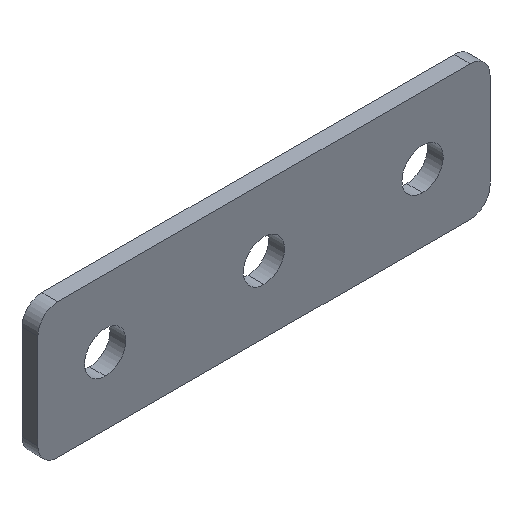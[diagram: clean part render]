
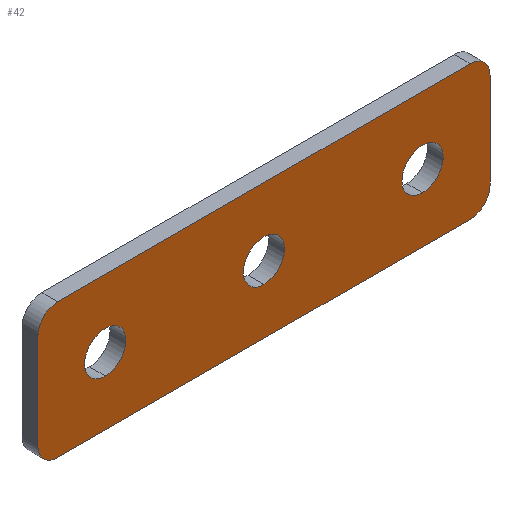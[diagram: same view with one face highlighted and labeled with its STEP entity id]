
A CAD part, isometric view. The second image highlights one B-rep face of the part: STEP entity #42.
In plain terms, the highlighted planar face has unit normal (0, -1, 0).
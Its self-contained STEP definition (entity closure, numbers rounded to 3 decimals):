
#4 = DIRECTION ( 'NONE',  ( 0., 1., 0. ) ) ;
#5 = DIRECTION ( 'NONE',  ( 0., 0., -1. ) ) ;
#7 = VERTEX_POINT ( 'NONE', #561 ) ;
#10 = DIRECTION ( 'NONE',  ( 0., 0., 1. ) ) ;
#17 = ORIENTED_EDGE ( 'NONE', *, *, #386, .T. ) ;
#19 = PLANE ( 'NONE',  #450 ) ;
#24 = ORIENTED_EDGE ( 'NONE', *, *, #378, .T. ) ;
#29 = DIRECTION ( 'NONE',  ( 0., 1., 0. ) ) ;
#31 = CARTESIAN_POINT ( 'NONE',  ( 48.5, 0., -8.5 ) ) ;
#34 = CIRCLE ( 'NONE', #402, 2.6 ) ;
#37 = EDGE_LOOP ( 'NONE', ( #189, #232, #395, #527, #210, #113, #227, #17 ) ) ;
#42 = ADVANCED_FACE ( 'NONE', ( #308, #188, #269, #448 ), #19, .T. ) ;
#67 = VECTOR ( 'NONE', #303, 1000. ) ;
#70 = CARTESIAN_POINT ( 'NONE',  ( 48.5, 0., 8.5 ) ) ;
#77 = CARTESIAN_POINT ( 'NONE',  ( -8.5, 0., 6. ) ) ;
#95 = VECTOR ( 'NONE', #174, 1000. ) ;
#102 = DIRECTION ( 'NONE',  ( 0., -1., 0. ) ) ;
#104 = CIRCLE ( 'NONE', #472, 2.5 ) ;
#109 = CARTESIAN_POINT ( 'NONE',  ( 20., 0., 0. ) ) ;
#113 = ORIENTED_EDGE ( 'NONE', *, *, #212, .T. ) ;
#118 = CARTESIAN_POINT ( 'NONE',  ( 46., 0., 6. ) ) ;
#123 = DIRECTION ( 'NONE',  ( 0., -1., 0. ) ) ;
#128 = CARTESIAN_POINT ( 'NONE',  ( 40., 0., -2.6 ) ) ;
#134 = DIRECTION ( 'NONE',  ( 0., 0., 1. ) ) ;
#142 = LINE ( 'NONE', #70, #194 ) ;
#147 = VERTEX_POINT ( 'NONE', #387 ) ;
#167 = EDGE_CURVE ( 'NONE', #195, #272, #483, .T. ) ;
#171 = EDGE_CURVE ( 'NONE', #467, #344, #142, .T. ) ;
#173 = VERTEX_POINT ( 'NONE', #253 ) ;
#174 = DIRECTION ( 'NONE',  ( -1., 0., 0. ) ) ;
#181 = AXIS2_PLACEMENT_3D ( 'NONE', #496, #359, #134 ) ;
#188 = FACE_BOUND ( 'NONE', #568, .T. ) ;
#189 = ORIENTED_EDGE ( 'NONE', *, *, #171, .F. ) ;
#190 = CARTESIAN_POINT ( 'NONE',  ( 0., 0., -2.6 ) ) ;
#191 = EDGE_CURVE ( 'NONE', #7, #238, #442, .T. ) ;
#194 = VECTOR ( 'NONE', #259, 1000. ) ;
#195 = VERTEX_POINT ( 'NONE', #309 ) ;
#196 = DIRECTION ( 'NONE',  ( 0., 1., 0. ) ) ;
#202 = EDGE_CURVE ( 'NONE', #467, #495, #224, .T. ) ;
#207 = CIRCLE ( 'NONE', #596, 2.6 ) ;
#210 = ORIENTED_EDGE ( 'NONE', *, *, #191, .F. ) ;
#212 = EDGE_CURVE ( 'NONE', #7, #147, #104, .T. ) ;
#213 = DIRECTION ( 'NONE',  ( 0., 0., -1. ) ) ;
#216 = DIRECTION ( 'NONE',  ( 0., 0., 1. ) ) ;
#219 = LINE ( 'NONE', #31, #95 ) ;
#224 = CIRCLE ( 'NONE', #280, 2.5 ) ;
#226 = EDGE_CURVE ( 'NONE', #173, #576, #262, .T. ) ;
#227 = ORIENTED_EDGE ( 'NONE', *, *, #282, .F. ) ;
#232 = ORIENTED_EDGE ( 'NONE', *, *, #202, .T. ) ;
#235 = AXIS2_PLACEMENT_3D ( 'NONE', #364, #102, #516 ) ;
#236 = CARTESIAN_POINT ( 'NONE',  ( 0., 0., 0. ) ) ;
#238 = VERTEX_POINT ( 'NONE', #77 ) ;
#240 = CARTESIAN_POINT ( 'NONE',  ( 46., 0., 8.5 ) ) ;
#253 = CARTESIAN_POINT ( 'NONE',  ( 0., 0., 2.6 ) ) ;
#259 = DIRECTION ( 'NONE',  ( 0., 0., -1. ) ) ;
#262 = CIRCLE ( 'NONE', #181, 2.6 ) ;
#268 = CIRCLE ( 'NONE', #461, 2.5 ) ;
#269 = FACE_BOUND ( 'NONE', #417, .T. ) ;
#270 = AXIS2_PLACEMENT_3D ( 'NONE', #465, #29, #543 ) ;
#272 = VERTEX_POINT ( 'NONE', #128 ) ;
#280 = AXIS2_PLACEMENT_3D ( 'NONE', #118, #123, #213 ) ;
#282 = EDGE_CURVE ( 'NONE', #355, #147, #219, .T. ) ;
#288 = DIRECTION ( 'NONE',  ( 0., 0., -1. ) ) ;
#297 = CARTESIAN_POINT ( 'NONE',  ( -8.5, 0., -8.5 ) ) ;
#300 = ORIENTED_EDGE ( 'NONE', *, *, #226, .T. ) ;
#301 = EDGE_CURVE ( 'NONE', #318, #495, #510, .T. ) ;
#303 = DIRECTION ( 'NONE',  ( 0., 0., 1. ) ) ;
#308 = FACE_BOUND ( 'NONE', #579, .T. ) ;
#309 = CARTESIAN_POINT ( 'NONE',  ( 40., 0., 2.6 ) ) ;
#318 = VERTEX_POINT ( 'NONE', #501 ) ;
#324 = CIRCLE ( 'NONE', #594, 2.6 ) ;
#325 = VERTEX_POINT ( 'NONE', #588 ) ;
#326 = EDGE_CURVE ( 'NONE', #272, #195, #34, .T. ) ;
#330 = CARTESIAN_POINT ( 'NONE',  ( 46., 0., -6. ) ) ;
#333 = ORIENTED_EDGE ( 'NONE', *, *, #167, .T. ) ;
#344 = VERTEX_POINT ( 'NONE', #513 ) ;
#349 = EDGE_CURVE ( 'NONE', #318, #238, #573, .T. ) ;
#352 = ORIENTED_EDGE ( 'NONE', *, *, #526, .T. ) ;
#355 = VERTEX_POINT ( 'NONE', #410 ) ;
#356 = EDGE_CURVE ( 'NONE', #576, #173, #207, .T. ) ;
#359 = DIRECTION ( 'NONE',  ( 0., 1., 0. ) ) ;
#360 = CARTESIAN_POINT ( 'NONE',  ( 40., 0., 0. ) ) ;
#364 = CARTESIAN_POINT ( 'NONE',  ( -6., 0., 6. ) ) ;
#365 = ORIENTED_EDGE ( 'NONE', *, *, #356, .T. ) ;
#378 = EDGE_CURVE ( 'NONE', #383, #325, #408, .T. ) ;
#383 = VERTEX_POINT ( 'NONE', #558 ) ;
#384 = DIRECTION ( 'NONE',  ( 0., -1., 0. ) ) ;
#386 = EDGE_CURVE ( 'NONE', #355, #344, #268, .T. ) ;
#387 = CARTESIAN_POINT ( 'NONE',  ( -6., 0., -8.5 ) ) ;
#395 = ORIENTED_EDGE ( 'NONE', *, *, #301, .F. ) ;
#402 = AXIS2_PLACEMENT_3D ( 'NONE', #360, #4, #430 ) ;
#404 = CARTESIAN_POINT ( 'NONE',  ( -6., 0., -6. ) ) ;
#408 = CIRCLE ( 'NONE', #270, 2.6 ) ;
#410 = CARTESIAN_POINT ( 'NONE',  ( 46., 0., -8.5 ) ) ;
#417 = EDGE_LOOP ( 'NONE', ( #300, #365 ) ) ;
#419 = CARTESIAN_POINT ( 'NONE',  ( 48.5, 0., 6. ) ) ;
#422 = DIRECTION ( 'NONE',  ( 0., -1., 0. ) ) ;
#430 = DIRECTION ( 'NONE',  ( 0., 0., 1. ) ) ;
#442 = LINE ( 'NONE', #297, #67 ) ;
#443 = CARTESIAN_POINT ( 'NONE',  ( 0., 0., 0. ) ) ;
#448 = FACE_OUTER_BOUND ( 'NONE', #37, .T. ) ;
#450 = AXIS2_PLACEMENT_3D ( 'NONE', #443, #384, #288 ) ;
#451 = DIRECTION ( 'NONE',  ( 0., 0., -1. ) ) ;
#461 = AXIS2_PLACEMENT_3D ( 'NONE', #330, #422, #5 ) ;
#465 = CARTESIAN_POINT ( 'NONE',  ( 20., 0., 0. ) ) ;
#467 = VERTEX_POINT ( 'NONE', #419 ) ;
#472 = AXIS2_PLACEMENT_3D ( 'NONE', #404, #582, #451 ) ;
#480 = AXIS2_PLACEMENT_3D ( 'NONE', #586, #584, #216 ) ;
#483 = CIRCLE ( 'NONE', #480, 2.6 ) ;
#491 = ORIENTED_EDGE ( 'NONE', *, *, #326, .T. ) ;
#495 = VERTEX_POINT ( 'NONE', #240 ) ;
#496 = CARTESIAN_POINT ( 'NONE',  ( 0., 0., 0. ) ) ;
#497 = CARTESIAN_POINT ( 'NONE',  ( 8.5, 0., 8.5 ) ) ;
#501 = CARTESIAN_POINT ( 'NONE',  ( -6., 0., 8.5 ) ) ;
#510 = LINE ( 'NONE', #497, #599 ) ;
#513 = CARTESIAN_POINT ( 'NONE',  ( 48.5, 0., -6. ) ) ;
#516 = DIRECTION ( 'NONE',  ( 0., 0., -1. ) ) ;
#517 = DIRECTION ( 'NONE',  ( 0., 0., 1. ) ) ;
#526 = EDGE_CURVE ( 'NONE', #325, #383, #324, .T. ) ;
#527 = ORIENTED_EDGE ( 'NONE', *, *, #349, .T. ) ;
#543 = DIRECTION ( 'NONE',  ( 0., 0., 1. ) ) ;
#558 = CARTESIAN_POINT ( 'NONE',  ( 20., 0., 2.6 ) ) ;
#561 = CARTESIAN_POINT ( 'NONE',  ( -8.5, 0., -6. ) ) ;
#565 = DIRECTION ( 'NONE',  ( 0., 1., 0. ) ) ;
#568 = EDGE_LOOP ( 'NONE', ( #24, #352 ) ) ;
#573 = CIRCLE ( 'NONE', #235, 2.5 ) ;
#576 = VERTEX_POINT ( 'NONE', #190 ) ;
#579 = EDGE_LOOP ( 'NONE', ( #333, #491 ) ) ;
#582 = DIRECTION ( 'NONE',  ( 0., -1., 0. ) ) ;
#584 = DIRECTION ( 'NONE',  ( 0., 1., 0. ) ) ;
#586 = CARTESIAN_POINT ( 'NONE',  ( 40., 0., 0. ) ) ;
#588 = CARTESIAN_POINT ( 'NONE',  ( 20., 0., -2.6 ) ) ;
#593 = DIRECTION ( 'NONE',  ( 1., 0., 0. ) ) ;
#594 = AXIS2_PLACEMENT_3D ( 'NONE', #109, #565, #10 ) ;
#596 = AXIS2_PLACEMENT_3D ( 'NONE', #236, #196, #517 ) ;
#599 = VECTOR ( 'NONE', #593, 1000. ) ;
